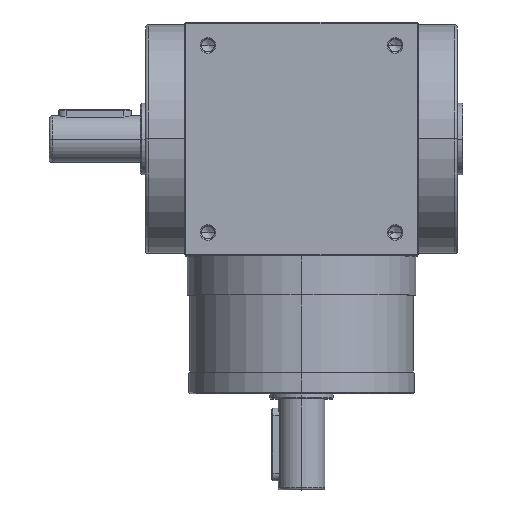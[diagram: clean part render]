
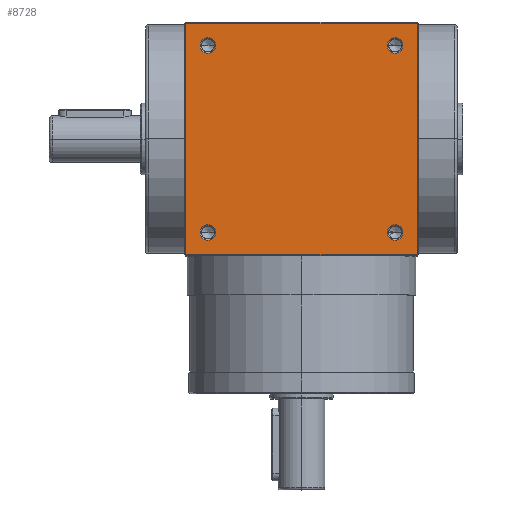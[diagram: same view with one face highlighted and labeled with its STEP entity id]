
A CAD part, top view. The second image highlights one B-rep face of the part: STEP entity #8728.
In plain terms, the highlighted planar face has unit normal (0, 0, 1).
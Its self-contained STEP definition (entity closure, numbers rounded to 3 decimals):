
#13 = CARTESIAN_POINT ( 'NONE',  ( -44.5, -44.5, 45. ) ) ;
#18 = LINE ( 'NONE', #5080, #3034 ) ;
#100 = CARTESIAN_POINT ( 'NONE',  ( -33., 36., 45. ) ) ;
#163 = DIRECTION ( 'NONE',  ( -1., 0., 0. ) ) ;
#749 = CARTESIAN_POINT ( 'NONE',  ( 39., 36., 45. ) ) ;
#836 = ORIENTED_EDGE ( 'NONE', *, *, #6121, .T. ) ;
#863 = DIRECTION ( 'NONE',  ( 0., 0., -1. ) ) ;
#870 = VERTEX_POINT ( 'NONE', #100 ) ;
#939 = EDGE_CURVE ( 'NONE', #7288, #9504, #18, .T. ) ;
#1013 = CARTESIAN_POINT ( 'NONE',  ( 36., -36., 45. ) ) ;
#1059 = EDGE_LOOP ( 'NONE', ( #2521, #7050 ) ) ;
#1155 = CARTESIAN_POINT ( 'NONE',  ( 0., 44.5, 45. ) ) ;
#1297 = CARTESIAN_POINT ( 'NONE',  ( -36., 36., 45. ) ) ;
#1611 = AXIS2_PLACEMENT_3D ( 'NONE', #1297, #6649, #6673 ) ;
#1657 = CIRCLE ( 'NONE', #3651, 3. ) ;
#1697 = CARTESIAN_POINT ( 'NONE',  ( 39., -36., 45. ) ) ;
#1712 = EDGE_CURVE ( 'NONE', #4389, #3194, #5703, .T. ) ;
#1788 = CIRCLE ( 'NONE', #2690, 3. ) ;
#2130 = VECTOR ( 'NONE', #6450, 1000. ) ;
#2161 = CARTESIAN_POINT ( 'NONE',  ( 44.5, 44.5, 45. ) ) ;
#2180 = CARTESIAN_POINT ( 'NONE',  ( 36., 36., 45. ) ) ;
#2244 = FACE_OUTER_BOUND ( 'NONE', #4171, .T. ) ;
#2472 = DIRECTION ( 'NONE',  ( -1., 0., 0. ) ) ;
#2492 = LINE ( 'NONE', #8897, #2130 ) ;
#2521 = ORIENTED_EDGE ( 'NONE', *, *, #1712, .T. ) ;
#2679 = EDGE_LOOP ( 'NONE', ( #5545, #6452 ) ) ;
#2682 = CARTESIAN_POINT ( 'NONE',  ( -44.5, 0., 45. ) ) ;
#2690 = AXIS2_PLACEMENT_3D ( 'NONE', #1013, #4875, #163 ) ;
#2732 = EDGE_CURVE ( 'NONE', #9988, #4817, #9937, .T. ) ;
#2754 = ORIENTED_EDGE ( 'NONE', *, *, #4889, .T. ) ;
#2809 = AXIS2_PLACEMENT_3D ( 'NONE', #2180, #6827, #3794 ) ;
#2910 = DIRECTION ( 'NONE',  ( -1., 0., 0. ) ) ;
#2989 = LINE ( 'NONE', #2682, #3117 ) ;
#3018 = CARTESIAN_POINT ( 'NONE',  ( -36., 36., 45. ) ) ;
#3034 = VECTOR ( 'NONE', #4149, 1000. ) ;
#3075 = ORIENTED_EDGE ( 'NONE', *, *, #5303, .T. ) ;
#3106 = CIRCLE ( 'NONE', #9221, 3. ) ;
#3117 = VECTOR ( 'NONE', #9672, 1000. ) ;
#3144 = DIRECTION ( 'NONE',  ( 0., 0., -1. ) ) ;
#3194 = VERTEX_POINT ( 'NONE', #3332 ) ;
#3215 = EDGE_LOOP ( 'NONE', ( #836, #4649 ) ) ;
#3289 = CARTESIAN_POINT ( 'NONE',  ( 36., 36., 45. ) ) ;
#3331 = LINE ( 'NONE', #1155, #5157 ) ;
#3332 = CARTESIAN_POINT ( 'NONE',  ( -39., -36., 45. ) ) ;
#3651 = AXIS2_PLACEMENT_3D ( 'NONE', #3018, #6753, #2910 ) ;
#3685 = ORIENTED_EDGE ( 'NONE', *, *, #9497, .T. ) ;
#3698 = FACE_BOUND ( 'NONE', #3215, .T. ) ;
#3794 = DIRECTION ( 'NONE',  ( -1., 0., 0. ) ) ;
#3814 = VERTEX_POINT ( 'NONE', #7148 ) ;
#3941 = CARTESIAN_POINT ( 'NONE',  ( -39., 36., 45. ) ) ;
#3949 = VERTEX_POINT ( 'NONE', #2161 ) ;
#4074 = DIRECTION ( 'NONE',  ( -1., 0., 0. ) ) ;
#4079 = FACE_BOUND ( 'NONE', #1059, .T. ) ;
#4149 = DIRECTION ( 'NONE',  ( 1., 0., 0. ) ) ;
#4171 = EDGE_LOOP ( 'NONE', ( #6009, #6318, #2754, #3685 ) ) ;
#4269 = DIRECTION ( 'NONE',  ( -1., 0., 0. ) ) ;
#4389 = VERTEX_POINT ( 'NONE', #6536 ) ;
#4480 = ORIENTED_EDGE ( 'NONE', *, *, #9056, .T. ) ;
#4649 = ORIENTED_EDGE ( 'NONE', *, *, #2732, .T. ) ;
#4817 = VERTEX_POINT ( 'NONE', #749 ) ;
#4875 = DIRECTION ( 'NONE',  ( 0., 0., -1. ) ) ;
#4889 = EDGE_CURVE ( 'NONE', #9504, #3949, #2492, .T. ) ;
#5020 = CIRCLE ( 'NONE', #1611, 3. ) ;
#5080 = CARTESIAN_POINT ( 'NONE',  ( 0., -44.5, 45. ) ) ;
#5157 = VECTOR ( 'NONE', #8871, 1000. ) ;
#5303 = EDGE_CURVE ( 'NONE', #5395, #9917, #8260, .T. ) ;
#5343 = AXIS2_PLACEMENT_3D ( 'NONE', #3289, #5628, #4074 ) ;
#5395 = VERTEX_POINT ( 'NONE', #9428 ) ;
#5526 = CARTESIAN_POINT ( 'NONE',  ( 36., -36., 45. ) ) ;
#5545 = ORIENTED_EDGE ( 'NONE', *, *, #9224, .T. ) ;
#5628 = DIRECTION ( 'NONE',  ( 0., 0., -1. ) ) ;
#5637 = EDGE_CURVE ( 'NONE', #7048, #870, #5020, .T. ) ;
#5703 = CIRCLE ( 'NONE', #8134, 3. ) ;
#5706 = AXIS2_PLACEMENT_3D ( 'NONE', #9561, #5718, #8803 ) ;
#5718 = DIRECTION ( 'NONE',  ( 0., 0., -1. ) ) ;
#5748 = CARTESIAN_POINT ( 'NONE',  ( 44.5, -44.5, 45. ) ) ;
#5854 = AXIS2_PLACEMENT_3D ( 'NONE', #5526, #863, #2472 ) ;
#6009 = ORIENTED_EDGE ( 'NONE', *, *, #8273, .T. ) ;
#6121 = EDGE_CURVE ( 'NONE', #4817, #9988, #8561, .T. ) ;
#6318 = ORIENTED_EDGE ( 'NONE', *, *, #939, .T. ) ;
#6428 = PLANE ( 'NONE',  #5706 ) ;
#6450 = DIRECTION ( 'NONE',  ( 0., 1., 0. ) ) ;
#6452 = ORIENTED_EDGE ( 'NONE', *, *, #5637, .T. ) ;
#6536 = CARTESIAN_POINT ( 'NONE',  ( -33., -36., 45. ) ) ;
#6575 = DIRECTION ( 'NONE',  ( 0., 0., -1. ) ) ;
#6614 = EDGE_CURVE ( 'NONE', #3194, #4389, #3106, .T. ) ;
#6649 = DIRECTION ( 'NONE',  ( 0., 0., -1. ) ) ;
#6673 = DIRECTION ( 'NONE',  ( -1., 0., 0. ) ) ;
#6753 = DIRECTION ( 'NONE',  ( 0., 0., -1. ) ) ;
#6827 = DIRECTION ( 'NONE',  ( 0., 0., -1. ) ) ;
#7027 = EDGE_LOOP ( 'NONE', ( #4480, #3075 ) ) ;
#7048 = VERTEX_POINT ( 'NONE', #3941 ) ;
#7050 = ORIENTED_EDGE ( 'NONE', *, *, #6614, .T. ) ;
#7148 = CARTESIAN_POINT ( 'NONE',  ( -44.5, 44.5, 45. ) ) ;
#7288 = VERTEX_POINT ( 'NONE', #13 ) ;
#7929 = FACE_BOUND ( 'NONE', #7027, .T. ) ;
#8134 = AXIS2_PLACEMENT_3D ( 'NONE', #8907, #6575, #4269 ) ;
#8260 = CIRCLE ( 'NONE', #5854, 3. ) ;
#8273 = EDGE_CURVE ( 'NONE', #3814, #7288, #2989, .T. ) ;
#8470 = CARTESIAN_POINT ( 'NONE',  ( 33., 36., 45. ) ) ;
#8561 = CIRCLE ( 'NONE', #5343, 3. ) ;
#8586 = DIRECTION ( 'NONE',  ( -1., 0., 0. ) ) ;
#8728 = ADVANCED_FACE ( 'NONE', ( #2244, #7929, #4079, #3698, #9903 ), #6428, .F. ) ;
#8803 = DIRECTION ( 'NONE',  ( -1., 0., 0. ) ) ;
#8871 = DIRECTION ( 'NONE',  ( -1., 0., 0. ) ) ;
#8897 = CARTESIAN_POINT ( 'NONE',  ( 44.5, 0., 45. ) ) ;
#8907 = CARTESIAN_POINT ( 'NONE',  ( -36., -36., 45. ) ) ;
#9056 = EDGE_CURVE ( 'NONE', #9917, #5395, #1788, .T. ) ;
#9221 = AXIS2_PLACEMENT_3D ( 'NONE', #9485, #3144, #8586 ) ;
#9224 = EDGE_CURVE ( 'NONE', #870, #7048, #1657, .T. ) ;
#9428 = CARTESIAN_POINT ( 'NONE',  ( 33., -36., 45. ) ) ;
#9485 = CARTESIAN_POINT ( 'NONE',  ( -36., -36., 45. ) ) ;
#9497 = EDGE_CURVE ( 'NONE', #3949, #3814, #3331, .T. ) ;
#9504 = VERTEX_POINT ( 'NONE', #5748 ) ;
#9561 = CARTESIAN_POINT ( 'NONE',  ( 0., 0., 45. ) ) ;
#9672 = DIRECTION ( 'NONE',  ( 0., -1., 0. ) ) ;
#9903 = FACE_BOUND ( 'NONE', #2679, .T. ) ;
#9917 = VERTEX_POINT ( 'NONE', #1697 ) ;
#9937 = CIRCLE ( 'NONE', #2809, 3. ) ;
#9988 = VERTEX_POINT ( 'NONE', #8470 ) ;
